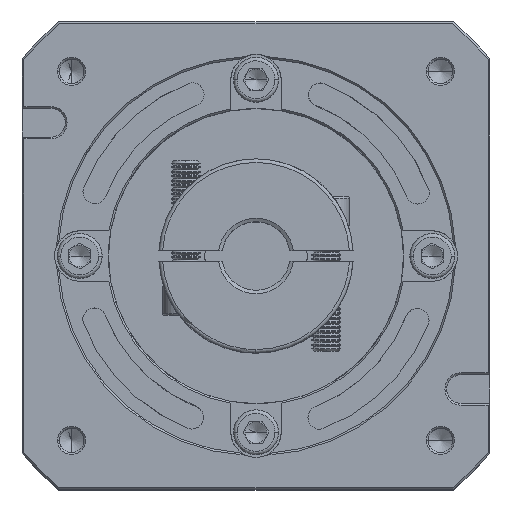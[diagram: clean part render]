
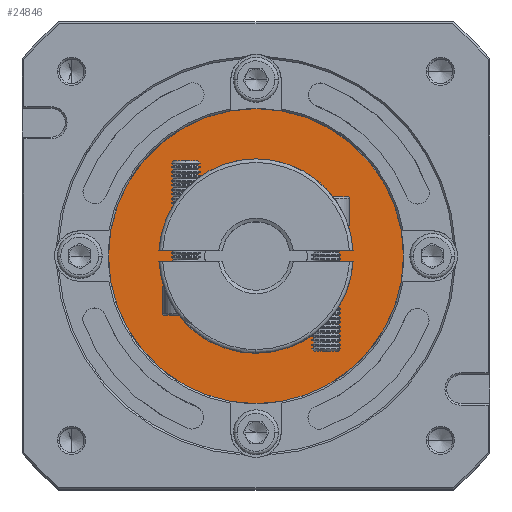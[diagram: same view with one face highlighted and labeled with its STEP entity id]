
A CAD part, top view. The second image highlights one B-rep face of the part: STEP entity #24846.
In plain terms, the highlighted planar face has unit normal (0, 0, 1).
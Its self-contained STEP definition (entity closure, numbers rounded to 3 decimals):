
#1665 = CARTESIAN_POINT ( 'NONE',  ( 114.051, 102.547, -40.936 ) ) ;
#2891 = CARTESIAN_POINT ( 'NONE',  ( 73.051, 102.547, -40.936 ) ) ;
#8346 = DIRECTION ( 'NONE',  ( 1., 0., 0. ) ) ;
#11128 = VERTEX_POINT ( 'NONE', #1665 ) ;
#11460 = AXIS2_PLACEMENT_3D ( 'NONE', #99318, #98944, #82137 ) ;
#11513 = EDGE_LOOP ( 'NONE', ( #56842, #71825 ) ) ;
#14852 = FACE_BOUND ( 'NONE', #26396, .T. ) ;
#17110 = DIRECTION ( 'NONE',  ( 0., 0., -1. ) ) ;
#24846 = ADVANCED_FACE ( 'NONE', ( #61338, #14852 ), #90133, .T. ) ;
#25116 = CARTESIAN_POINT ( 'NONE',  ( 73.051, 102.547, -40.936 ) ) ;
#26396 = EDGE_LOOP ( 'NONE', ( #77334, #53315 ) ) ;
#31170 = EDGE_CURVE ( 'NONE', #104188, #48041, #93561, .T. ) ;
#35034 = CARTESIAN_POINT ( 'NONE',  ( 53.051, 102.547, -40.936 ) ) ;
#40909 = CARTESIAN_POINT ( 'NONE',  ( 73.051, 102.547, -40.936 ) ) ;
#43178 = EDGE_CURVE ( 'NONE', #111454, #11128, #88477, .T. ) ;
#46649 = DIRECTION ( 'NONE',  ( 0., 0., 1. ) ) ;
#48041 = VERTEX_POINT ( 'NONE', #35034 ) ;
#49761 = DIRECTION ( 'NONE',  ( 0., 0., -1. ) ) ;
#53315 = ORIENTED_EDGE ( 'NONE', *, *, #66672, .T. ) ;
#56842 = ORIENTED_EDGE ( 'NONE', *, *, #113321, .T. ) ;
#57568 = CARTESIAN_POINT ( 'NONE',  ( 32.051, 102.547, -40.936 ) ) ;
#59152 = AXIS2_PLACEMENT_3D ( 'NONE', #40909, #49761, #76064 ) ;
#60469 = AXIS2_PLACEMENT_3D ( 'NONE', #2891, #89185, #97999 ) ;
#61338 = FACE_OUTER_BOUND ( 'NONE', #11513, .T. ) ;
#66672 = EDGE_CURVE ( 'NONE', #48041, #104188, #94096, .T. ) ;
#68538 = CARTESIAN_POINT ( 'NONE',  ( 93.051, 102.547, -40.936 ) ) ;
#71825 = ORIENTED_EDGE ( 'NONE', *, *, #43178, .T. ) ;
#76064 = DIRECTION ( 'NONE',  ( 1., 0., 0. ) ) ;
#77334 = ORIENTED_EDGE ( 'NONE', *, *, #31170, .T. ) ;
#82137 = DIRECTION ( 'NONE',  ( 1., 0., 0. ) ) ;
#84253 = AXIS2_PLACEMENT_3D ( 'NONE', #25116, #17110, #8346 ) ;
#85285 = AXIS2_PLACEMENT_3D ( 'NONE', #90882, #46649, #107708 ) ;
#88477 = CIRCLE ( 'NONE', #85285, 41. ) ;
#89185 = DIRECTION ( 'NONE',  ( 0., 0., 1. ) ) ;
#90133 = PLANE ( 'NONE',  #11460 ) ;
#90882 = CARTESIAN_POINT ( 'NONE',  ( 73.051, 102.547, -40.936 ) ) ;
#93561 = CIRCLE ( 'NONE', #59152, 20. ) ;
#94096 = CIRCLE ( 'NONE', #84253, 20. ) ;
#97999 = DIRECTION ( 'NONE',  ( 1., 0., 0. ) ) ;
#98944 = DIRECTION ( 'NONE',  ( 0., 0., 1. ) ) ;
#99318 = CARTESIAN_POINT ( 'NONE',  ( 73.051, 102.547, -40.936 ) ) ;
#101695 = CIRCLE ( 'NONE', #60469, 41. ) ;
#104188 = VERTEX_POINT ( 'NONE', #68538 ) ;
#107708 = DIRECTION ( 'NONE',  ( 1., 0., 0. ) ) ;
#111454 = VERTEX_POINT ( 'NONE', #57568 ) ;
#113321 = EDGE_CURVE ( 'NONE', #11128, #111454, #101695, .T. ) ;
